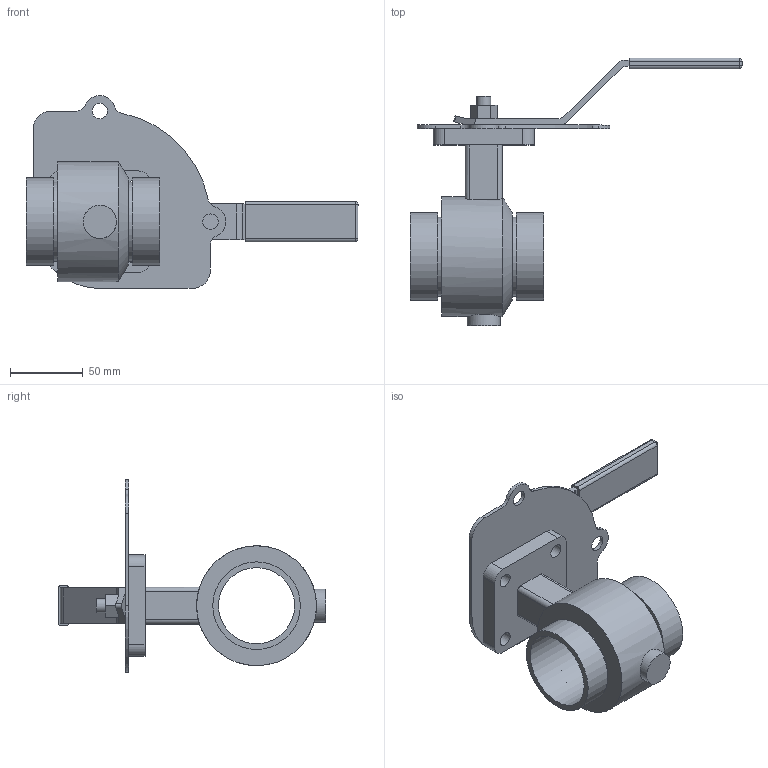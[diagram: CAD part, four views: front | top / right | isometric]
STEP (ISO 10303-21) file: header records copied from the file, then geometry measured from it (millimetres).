
FILE_DESCRIPTION(/* description */ ('VIC STRENGTHIN 300 MASTERSEAL BUTTERFLY VALVE E461 w/LH','CAx-IF Rec.Pracs.---Representation and Presentation of Product Manufacturing Information (PMI)---4.0---2014-10-13'),/* implementation_level */ '2;1');
FILE_NAME(/* name */ 'C:\Users\Vjadhav\AppData\Roaming\Autodesk\ApplicationPlugins\Back Up\Victaulic_SS-StrengThin 100_Valve Butterfly Lever Handle_Series E461 (ST1)\Victaulic_SS-StrengThin 100_Valve Butterfly Lever Handle_2 (50).stp',/* time_stamp */ '2020-07-07T16:33:40+05:00',/* author */ ('jbrannon'),/* organization */ ('Victaulic'),/* preprocessor_version */ 'ST-DEVELOPER v17.2',/* originating_system */ 'Autodesk Inventor 2019',/* authorisation */ '');
FILE_SCHEMA (('AP242_MANAGED_MODEL_BASED_3D_ENGINEERING_MIM_LF { 1 0 10303 442 1 1 4 }'));
Length unit declared in the file: inch
Products named in the file (4): E461-02.0; E461-02.0_1; E461-02.0_2; E461-02.0_3
Assembly tree (3 placements, depth 2):
  E461-02.0
    E461-02.0_1
    E461-02.0_2
    E461-02.0_3
Bounding box: 228.59 x 184.41 x 132.84 mm (x, y, z)
Volume: 308226.1 mm3; surface area: 101867.5 mm2
Topology: 3 solids, 3 shells, 107 faces, 273 edges, 181 vertices
Faces by surface type: cylinder 52, plane 50, sphere 4, cone 1
Full cylindrical faces by diameter (mm): 9.652 x10, 10.668 x2, 18.288 x1, 22.86 x1, 52.387 x1, 54.102 x1, 54.331 x2, 60.325 x2, 82.55 x1
Entity records: 3675 total; most frequent: CARTESIAN_POINT 639, DIRECTION 609, ORIENTED_EDGE 546, EDGE_CURVE 273, AXIS2_PLACEMENT_3D 229, VERTEX_POINT 181, LINE 151, VECTOR 151
